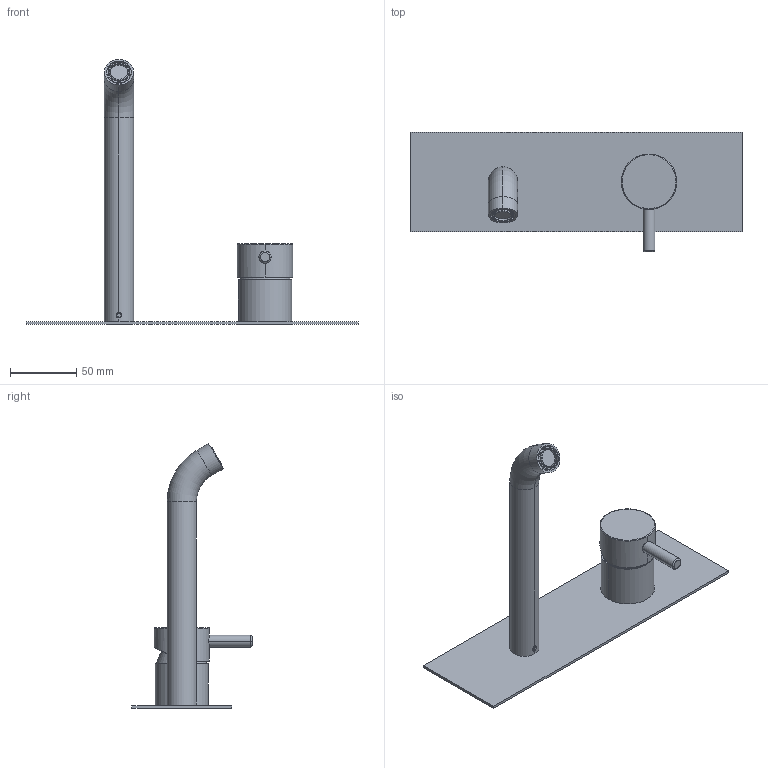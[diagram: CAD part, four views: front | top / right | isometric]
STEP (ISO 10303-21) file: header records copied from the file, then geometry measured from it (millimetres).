
FILE_DESCRIPTION((''),'2;1');
FILE_NAME('12542_SW0001','2024-03-19T15:58:20',('carloff'),(''),'CREO PARAMETRIC BY PTC INC, 2022014','CREO PARAMETRIC BY PTC INC, 2022014','');
FILE_SCHEMA(('CONFIG_CONTROL_DESIGN'));
Products named in the file (1): 12542_SW0001
Bounding box: 250 x 90.4 x 199.53 mm (x, y, z)
Volume: 122261.2 mm3; surface area: 111429.5 mm2
Topology: 4 solids, 4 shells, 841 faces, 2423 edges, 1598 vertices
Faces by surface type: plane 323, cylinder 315, torus 80, cone 76, bspline 41, sphere 6
Entity records: 54307 total; most frequent: CARTESIAN_POINT 32359, ORIENTED_EDGE 4838, DIRECTION 4380, EDGE_CURVE 2419, AXIS2_PLACEMENT_3D 1632, VERTEX_POINT 1598, VECTOR 1116, LINE 1116
